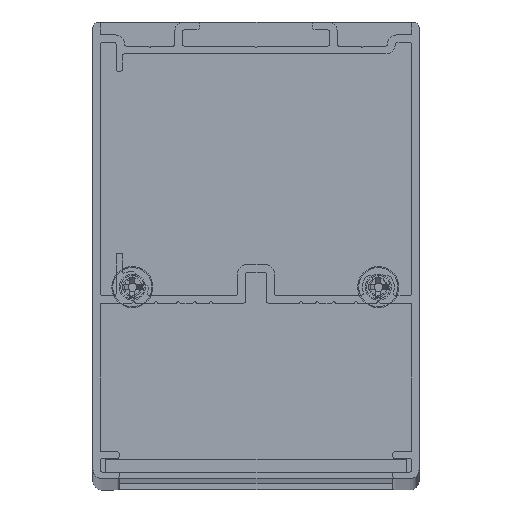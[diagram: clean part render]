
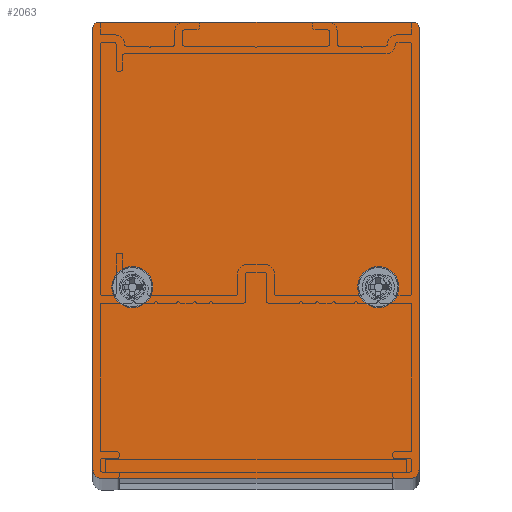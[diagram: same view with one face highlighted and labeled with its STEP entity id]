
A CAD part, top view. The second image highlights one B-rep face of the part: STEP entity #2063.
In plain terms, the highlighted planar face has unit normal (0, 0, 1).
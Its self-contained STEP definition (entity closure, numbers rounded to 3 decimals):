
#2063=ADVANCED_FACE('',(#3819,#3821,#3823),#3825,.T.);
#3819=FACE_BOUND('',#3820,.T.);
#3820=EDGE_LOOP('',(#5632,#5633,#5634,#5635,#5636,#5637,#5638,#5639));
#3821=FACE_BOUND('',#3822,.T.);
#3822=EDGE_LOOP('',(#5640));
#3823=FACE_BOUND('',#3824,.T.);
#3824=EDGE_LOOP('',(#5641));
#3825=PLANE('',#3826);
#3826=AXIS2_PLACEMENT_3D('',#3827,#3828,#3829);
#3827=CARTESIAN_POINT('',(0.,0.,501.));
#3828=DIRECTION('',(0.,0.,1.));
#3829=DIRECTION('',(1.,0.,0.));
#5632=ORIENTED_EDGE('',*,*,#6478,.T.);
#5633=ORIENTED_EDGE('',*,*,#6479,.T.);
#5634=ORIENTED_EDGE('',*,*,#6480,.T.);
#5635=ORIENTED_EDGE('',*,*,#6481,.T.);
#5636=ORIENTED_EDGE('',*,*,#6482,.T.);
#5637=ORIENTED_EDGE('',*,*,#6483,.T.);
#5638=ORIENTED_EDGE('',*,*,#6484,.T.);
#5639=ORIENTED_EDGE('',*,*,#6485,.T.);
#5640=ORIENTED_EDGE('',*,*,#6486,.T.);
#5641=ORIENTED_EDGE('',*,*,#6487,.T.);
#6478=EDGE_CURVE('',#7607,#7608,#7609,.T.);
#6479=EDGE_CURVE('',#7608,#7610,#7611,.T.);
#6480=EDGE_CURVE('',#7610,#7612,#7613,.T.);
#6481=EDGE_CURVE('',#7612,#7614,#7615,.T.);
#6482=EDGE_CURVE('',#7614,#7616,#7617,.T.);
#6483=EDGE_CURVE('',#7616,#7618,#7619,.T.);
#6484=EDGE_CURVE('',#7618,#7620,#7621,.T.);
#6485=EDGE_CURVE('',#7620,#7607,#7622,.T.);
#6486=EDGE_CURVE('',#7623,#7623,#7624,.F.);
#6487=EDGE_CURVE('',#7625,#7625,#7626,.F.);
#7607=VERTEX_POINT('',#10330);
#7608=VERTEX_POINT('',#10331);
#7609=LINE('',#10332,#10333);
#7610=VERTEX_POINT('',#10335);
#7611=CIRCLE('',#10336,0.9);
#7612=VERTEX_POINT('',#10340);
#7613=LINE('',#10341,#10342);
#7614=VERTEX_POINT('',#10344);
#7615=CIRCLE('',#10345,0.9);
#7616=VERTEX_POINT('',#10349);
#7617=LINE('',#10350,#10351);
#7618=VERTEX_POINT('',#10353);
#7619=CIRCLE('',#10354,1.35);
#7620=VERTEX_POINT('',#10358);
#7621=LINE('',#10359,#10360);
#7622=CIRCLE('',#10362,1.35);
#7623=VERTEX_POINT('',#10366);
#7624=CIRCLE('',#10367,3.);
#7625=VERTEX_POINT('',#10371);
#7626=CIRCLE('',#10372,3.);
#10330=CARTESIAN_POINT('',(25.,-63.75,501.));
#10331=CARTESIAN_POINT('',(25.,4.,501.));
#10332=CARTESIAN_POINT('',(25.,-63.75,501.));
#10333=VECTOR('',#10334,1.);
#10334=DIRECTION('',(0.,1.,0.));
#10335=CARTESIAN_POINT('',(24.1,4.9,501.));
#10336=AXIS2_PLACEMENT_3D('',#10337,#10338,#10339);
#10337=CARTESIAN_POINT('',(24.1,4.,501.));
#10338=DIRECTION('',(-0.,0.,1.));
#10339=DIRECTION('',(1.,0.,0.));
#10340=CARTESIAN_POINT('',(-24.1,4.9,501.));
#10341=CARTESIAN_POINT('',(24.1,4.9,501.));
#10342=VECTOR('',#10343,1.);
#10343=DIRECTION('',(-1.,0.,0.));
#10344=CARTESIAN_POINT('',(-25.,4.,501.));
#10345=AXIS2_PLACEMENT_3D('',#10346,#10347,#10348);
#10346=CARTESIAN_POINT('',(-24.1,4.,501.));
#10347=DIRECTION('',(0.,0.,1.));
#10348=DIRECTION('',(0.,1.,0.));
#10349=CARTESIAN_POINT('',(-25.,-63.75,501.));
#10350=CARTESIAN_POINT('',(-25.,4.,501.));
#10351=VECTOR('',#10352,1.);
#10352=DIRECTION('',(0.,-1.,0.));
#10353=CARTESIAN_POINT('',(-23.65,-65.1,501.));
#10354=AXIS2_PLACEMENT_3D('',#10355,#10356,#10357);
#10355=CARTESIAN_POINT('',(-23.65,-63.75,501.));
#10356=DIRECTION('',(0.,0.,1.));
#10357=DIRECTION('',(-1.,0.,0.));
#10358=CARTESIAN_POINT('',(23.65,-65.1,501.));
#10359=CARTESIAN_POINT('',(-23.65,-65.1,501.));
#10360=VECTOR('',#10361,1.);
#10361=DIRECTION('',(1.,0.,0.));
#10362=AXIS2_PLACEMENT_3D('',#10363,#10364,#10365);
#10363=CARTESIAN_POINT('',(23.65,-63.75,501.));
#10364=DIRECTION('',(0.,-0.,1.));
#10365=DIRECTION('',(0.,-1.,0.));
#10366=CARTESIAN_POINT('',(21.749,-35.751,501.));
#10367=AXIS2_PLACEMENT_3D('',#10368,#10369,#10370);
#10368=CARTESIAN_POINT('',(18.749,-35.751,501.));
#10369=DIRECTION('',(0.,0.,1.));
#10370=DIRECTION('',(1.,0.,0.));
#10371=CARTESIAN_POINT('',(-15.956,-35.747,501.));
#10372=AXIS2_PLACEMENT_3D('',#10373,#10374,#10375);
#10373=CARTESIAN_POINT('',(-18.956,-35.747,501.));
#10374=DIRECTION('',(0.,0.,1.));
#10375=DIRECTION('',(1.,0.,0.));
